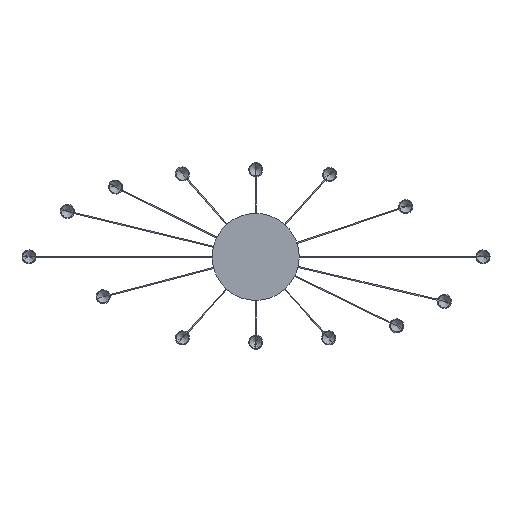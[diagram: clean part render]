
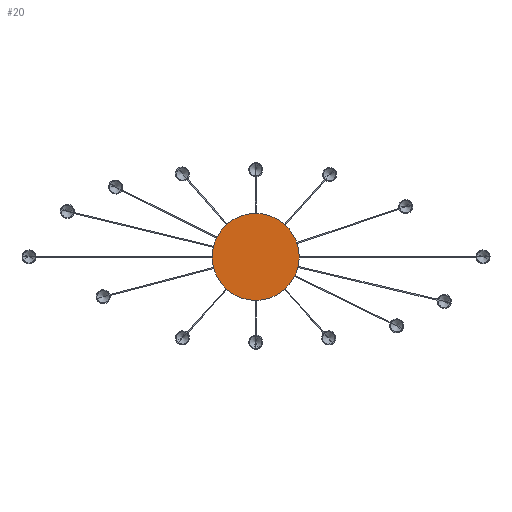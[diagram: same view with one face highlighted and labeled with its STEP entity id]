
A CAD part, front view. The second image highlights one B-rep face of the part: STEP entity #20.
In plain terms, the highlighted planar face has unit normal (0, -1, 0).
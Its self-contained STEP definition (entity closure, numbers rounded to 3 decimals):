
#20 = ADVANCED_FACE ( 'NONE', ( #4823 ), #1222, .T. ) ;
#527 = CARTESIAN_POINT ( 'NONE',  ( 0., -21.5, -155. ) ) ;
#717 = DIRECTION ( 'NONE',  ( 0., 0., -1. ) ) ;
#719 = DIRECTION ( 'NONE',  ( 0., 0., -1. ) ) ;
#830 = CARTESIAN_POINT ( 'NONE',  ( 0., -21.5, 0. ) ) ;
#851 = CARTESIAN_POINT ( 'NONE',  ( 0., -21.5, 0. ) ) ;
#1222 = PLANE ( 'NONE',  #2989 ) ;
#1724 = VERTEX_POINT ( 'NONE', #4260 ) ;
#2256 = EDGE_LOOP ( 'NONE', ( #3414, #5541 ) ) ;
#2989 = AXIS2_PLACEMENT_3D ( 'NONE', #7113, #3533, #719 ) ;
#3114 = CIRCLE ( 'NONE', #3351, 155. ) ;
#3170 = DIRECTION ( 'NONE',  ( 0., 0., -1. ) ) ;
#3351 = AXIS2_PLACEMENT_3D ( 'NONE', #851, #5957, #3170 ) ;
#3414 = ORIENTED_EDGE ( 'NONE', *, *, #4045, .T. ) ;
#3533 = DIRECTION ( 'NONE',  ( 0., -1., 0. ) ) ;
#4045 = EDGE_CURVE ( 'NONE', #5195, #1724, #4955, .T. ) ;
#4260 = CARTESIAN_POINT ( 'NONE',  ( 0., -21.5, 155. ) ) ;
#4427 = EDGE_CURVE ( 'NONE', #1724, #5195, #3114, .T. ) ;
#4823 = FACE_OUTER_BOUND ( 'NONE', #2256, .T. ) ;
#4955 = CIRCLE ( 'NONE', #6162, 155. ) ;
#5195 = VERTEX_POINT ( 'NONE', #527 ) ;
#5541 = ORIENTED_EDGE ( 'NONE', *, *, #4427, .T. ) ;
#5904 = DIRECTION ( 'NONE',  ( 0., -1., 0. ) ) ;
#5957 = DIRECTION ( 'NONE',  ( 0., -1., 0. ) ) ;
#6162 = AXIS2_PLACEMENT_3D ( 'NONE', #830, #5904, #717 ) ;
#7113 = CARTESIAN_POINT ( 'NONE',  ( 155., -21.5, 0. ) ) ;
